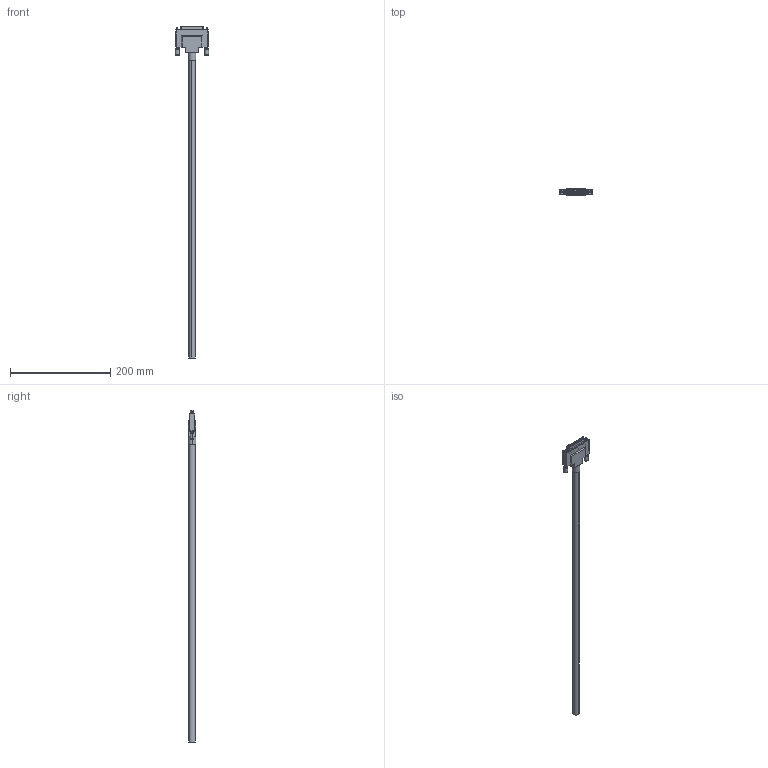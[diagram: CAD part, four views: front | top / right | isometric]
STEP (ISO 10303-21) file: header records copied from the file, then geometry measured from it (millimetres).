
FILE_DESCRIPTION (( 'STEP AP214' ), '1' );
FILE_NAME ('Cable2_2foot_RevA.STEP', '2022-09-10T22:53:01', ( '' ), ( '' ), 'SwSTEP 2.0', 'SolidWorks 2021', '' );
FILE_SCHEMA (( 'AUTOMOTIVE_DESIGN' ));
Length unit declared in the file: millimetre
Products named in the file (5): c-0749111-06-t-3d; Cable2_2foot_RevA; Connector_Asm; cable 2_oneendonly; c-5786152-3-a-3d
Assembly tree (4 placements, depth 3):
  Cable2_2foot_RevA
    Connector_Asm
      c-5786152-3-a-3d
      c-0749111-06-t-3d
    cable 2_oneendonly
Bounding box: 65.96 x 15.24 x 662.18 mm (x, y, z)
Volume: 112904.9 mm3; surface area: 38481.5 mm2
Topology: 3 solids, 5 shells, 1124 faces, 3257 edges, 2143 vertices
Faces by surface type: plane 886, cylinder 173, bspline 52, cone 13
Entity records: 42409 total; most frequent: CARTESIAN_POINT 12388, ORIENTED_EDGE 6482, DIRECTION 5544, EDGE_CURVE 3241, LINE 2768, VECTOR 2768, VERTEX_POINT 2143, EDGE_LOOP 1416
